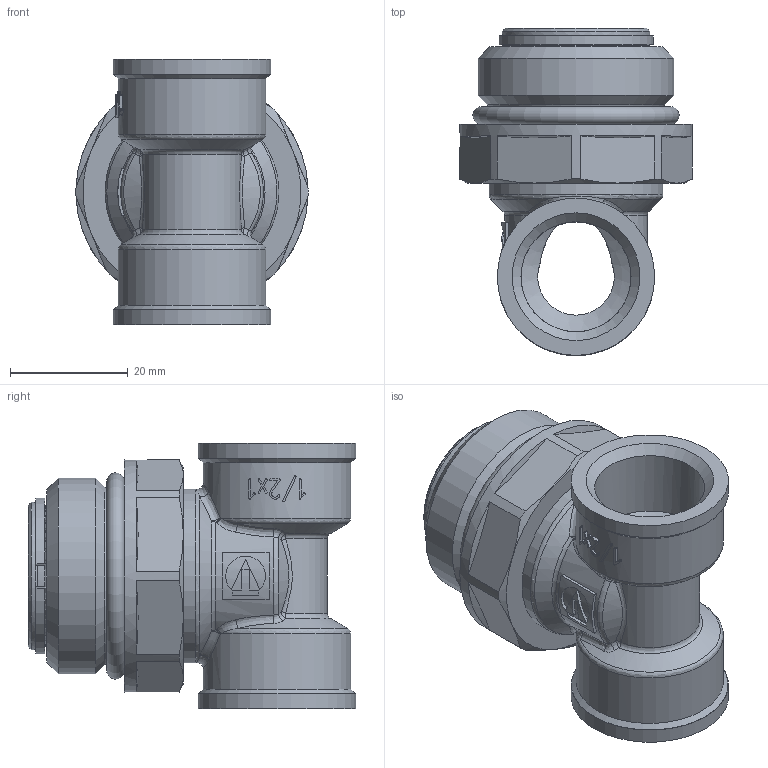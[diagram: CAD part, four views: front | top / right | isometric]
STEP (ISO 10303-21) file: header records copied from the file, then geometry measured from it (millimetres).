
FILE_DESCRIPTION(('STEP AP242'), '1');
FILE_NAME('VTc.630.N.0604', '', ('UNSPECIFIED'), ('UNSPECIFIED'), 'C3D Converter', 'C3D Toolkit', '');
FILE_SCHEMA(('AP242_MANAGED_MODEL_BASED_3D_ENGINEERING_MIM_LF { 1 0 10303 442 1 1 4 }'));
Length unit declared in the file: millimetre
Products named in the file (1): ВР.302635.092.000 СБ
Bounding box: 39.4 x 55.55 x 45 mm (x, y, z)
Volume: 25723.3 mm3; surface area: 13698.4 mm2
Topology: 1 solids, 1 shells, 249 faces, 642 edges, 401 vertices
Faces by surface type: plane 69, extrusion 66, bspline 36, cone 35, cylinder 29, torus 14
Full cylindrical faces by diameter (mm): 18.68 x2, 20 x1, 25 x4, 25.1 x1, 26.7 x2, 29.5 x1, 29.9 x1, 33.249 x1, 39.4 x1
Entity records: 11425 total; most frequent: CARTESIAN_POINT 6222, ORIENTED_EDGE 1212, DIRECTION 773, EDGE_CURVE 606, VERTEX_POINT 401, B_SPLINE_CURVE_WITH_KNOTS 331, EDGE_LOOP 295, AXIS2_PLACEMENT_3D 274
